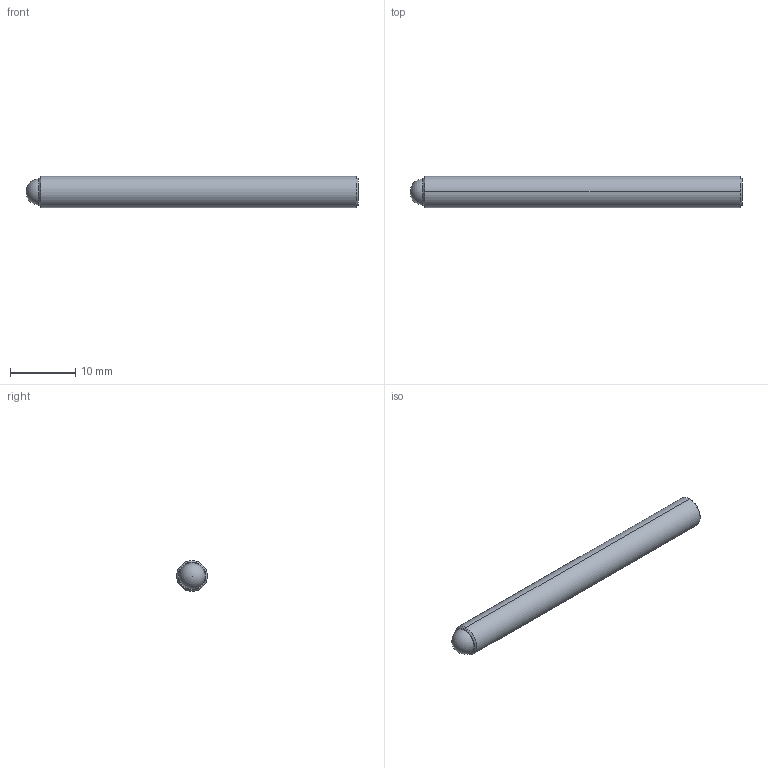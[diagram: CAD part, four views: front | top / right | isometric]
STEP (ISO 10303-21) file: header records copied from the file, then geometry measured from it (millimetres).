
FILE_DESCRIPTION (( 'STEP AP214' ), '1' );
FILE_NAME ('TS187-100-2000-AA.STEP', '2013-02-11T17:12:23', ( 'workpc' ), ( 'Microsoft' ), 'SwSTEP 2.0', 'SolidWorks 2013', '' );
FILE_SCHEMA (( 'AUTOMOTIVE_DESIGN' ));
Length unit declared in the file: inch
Products named in the file (1): TS187-100-2000-AA
Bounding box: 50.8 x 4.75 x 4.75 mm (x, y, z)
Volume: 861.1 mm3; surface area: 852.3 mm2
Topology: 2 solids, 2 shells, 20 faces, 45 edges, 29 vertices
Faces by surface type: plane 10, cylinder 4, cone 4, sphere 2
Entity records: 599 total; most frequent: DIRECTION 96, CARTESIAN_POINT 87, ORIENTED_EDGE 80, EDGE_CURVE 40, AXIS2_PLACEMENT_3D 35, VECTOR 26, LINE 26, VERTEX_POINT 26
